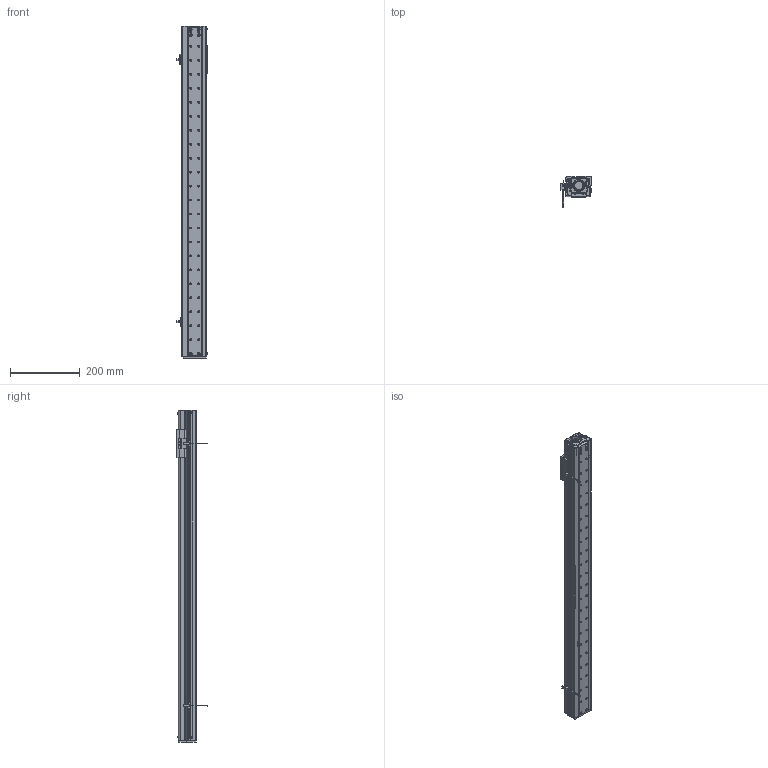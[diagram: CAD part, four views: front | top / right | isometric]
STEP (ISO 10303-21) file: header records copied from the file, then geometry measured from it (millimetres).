
FILE_DESCRIPTION (( 'STEP AP203' ), '1' );
FILE_NAME ('CTHM6-S750.STEP', '2019-12-18T01:57:24', ( '微软用户' ), ( '微软中国' ), 'SwSTEP 2.0', 'SolidWorks 2017', '' );
FILE_SCHEMA (( 'CONFIG_CONTROL_DESIGN' ));
Length unit declared in the file: millimetre
Products named in the file (17): M3-L6半圆头内六角螺丝; 羲壽え; M3-L6囀鞠褒蹟佪; 支持侧轴承座(带磁条); EE-SX672-BR; 遣喳蝶15x12x8; 滅袉蝶; MG60裔啣; CTHM6-S750; 耜結啣(湍羞); LMW15奻窅; DG60傷裔(祥結傷裔); 蟀諉釱(裔啣党蜊); M4-L10囀鞠褒蹟佪; LMW15AA; 侧挡板2(带磁条修改厚度); 固定侧轴承座(自制轴承座)
Assembly tree (29 placements, depth 2):
  CTHM6-S750
    LMW15奻窅
    蟀諉釱(裔啣党蜊)
    LMW15AA
    固定侧轴承座(自制轴承座)
    羲壽え
    支持侧轴承座(带磁条)
    遣喳蝶15x12x8  x2
    MG60裔啣
    耜結啣(湍羞)
    DG60傷裔(祥結傷裔)
    M4-L10囀鞠褒蹟佪  x2
    侧挡板2(带磁条修改厚度)
    M3-L6半圆头内六角螺丝  x8
    M3-L6囀鞠褒蹟佪  x4
    EE-SX672-BR  x2
    滅袉蝶
Bounding box: 86.7 x 87.8 x 950 mm (x, y, z)
Volume: 924306.5 mm3; surface area: 646155.2 mm2
Topology: 33 solids, 33 shells, 2057 faces, 5242 edges, 3240 vertices
Faces by surface type: plane 804, cylinder 753, cone 386, torus 88, bspline 26
Entity records: 56356 total; most frequent: CARTESIAN_POINT 11619, DIRECTION 9270, ORIENTED_EDGE 8700, EDGE_CURVE 4350, AXIS2_PLACEMENT_3D 3492, VERTEX_POINT 2741, LINE 2286, VECTOR 2286
